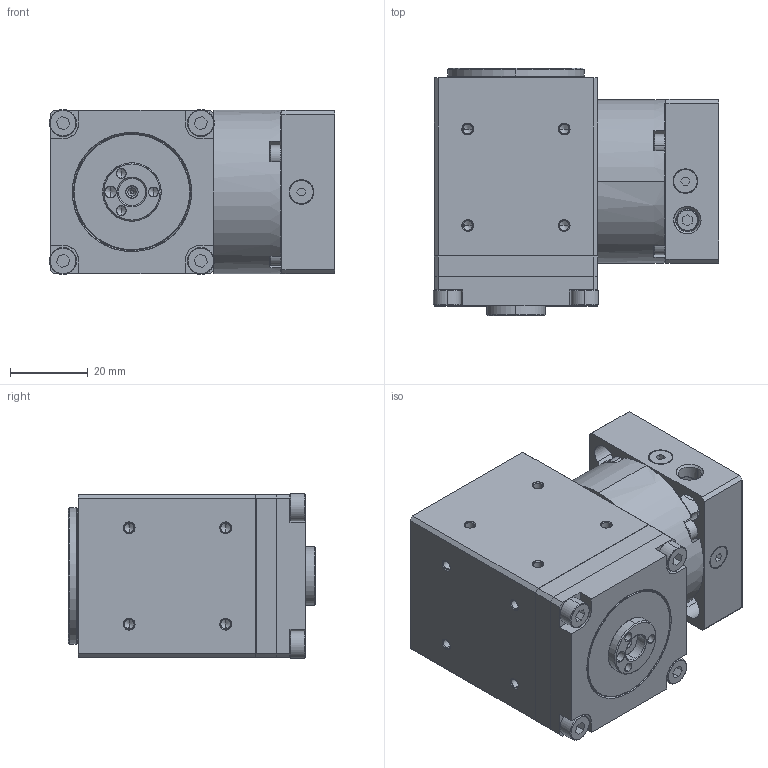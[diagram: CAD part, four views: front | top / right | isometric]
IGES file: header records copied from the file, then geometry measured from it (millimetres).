
Start section: SolidWorks IGES file using analytic representation for surfaces
Global section: file name: C:\Users\render\Documents\CAD Files\R-Gearboxes\RLFS\RLFS-042-00X.IGS; native system: SolidWorks 2011; preprocessor: SolidWorks 2011; author: render; date: 120227.115955; units: millimetre
Bounding box: 73.18 x 63.5 x 42.36 mm (x, y, z)
Surface area: 78192.6 mm2 (no closed solid volume)
Topology: 0 solids, 0 shells, 1373 faces, 19986 edges, 19904 vertices
Faces by surface type: revolution 871, bspline 502
